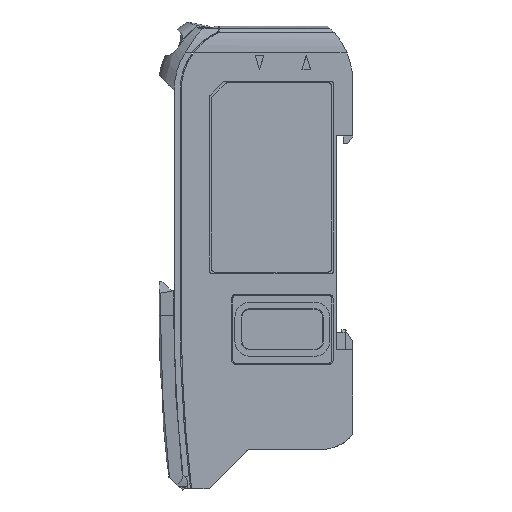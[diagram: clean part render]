
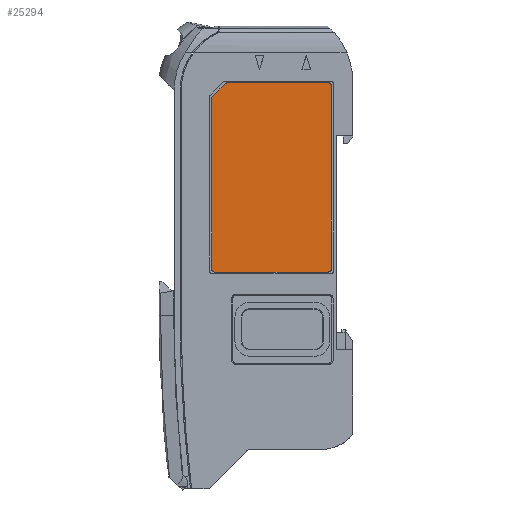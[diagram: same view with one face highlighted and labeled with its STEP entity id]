
A CAD part, left-side view. The second image highlights one B-rep face of the part: STEP entity #25294.
In plain terms, the highlighted planar face has unit normal (-1, 0, 0).
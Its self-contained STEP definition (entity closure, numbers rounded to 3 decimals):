
#65 = CARTESIAN_POINT ( 'NONE',  ( -10.425, 23.703, -41.597 ) ) ;
#2068 = ORIENTED_EDGE ( 'NONE', *, *, #30544, .F. ) ;
#2110 = VERTEX_POINT ( 'NONE', #37469 ) ;
#2374 = CARTESIAN_POINT ( 'NONE',  ( -10.425, 4.203, -9.697 ) ) ;
#3150 = DIRECTION ( 'NONE',  ( 1., 0., 0. ) ) ;
#3850 = EDGE_CURVE ( 'NONE', #12073, #45931, #11597, .T. ) ;
#4039 = CIRCLE ( 'NONE', #30896, 0.5 ) ;
#4186 = DIRECTION ( 'NONE',  ( 0., 0.707, -0.707 ) ) ;
#4609 = CIRCLE ( 'NONE', #18477, 0.5 ) ;
#6719 = EDGE_CURVE ( 'NONE', #43496, #14221, #35089, .T. ) ;
#7288 = CARTESIAN_POINT ( 'NONE',  ( -10.425, 24.203, -12.197 ) ) ;
#7585 = LINE ( 'NONE', #8045, #17081 ) ;
#8045 = CARTESIAN_POINT ( 'NONE',  ( -10.425, 4.203, -42.097 ) ) ;
#8572 = CIRCLE ( 'NONE', #18497, 0.5 ) ;
#8724 = CARTESIAN_POINT ( 'NONE',  ( -10.425, 23.703, -41.597 ) ) ;
#9726 = DIRECTION ( 'NONE',  ( 1., 0., 0. ) ) ;
#10239 = ORIENTED_EDGE ( 'NONE', *, *, #26093, .T. ) ;
#10746 = CARTESIAN_POINT ( 'NONE',  ( -10.425, 3.703, -41.597 ) ) ;
#11163 = VERTEX_POINT ( 'NONE', #10746 ) ;
#11385 = DIRECTION ( 'NONE',  ( 0., 0., -1. ) ) ;
#11597 = LINE ( 'NONE', #7288, #18586 ) ;
#12073 = VERTEX_POINT ( 'NONE', #21500 ) ;
#12399 = ORIENTED_EDGE ( 'NONE', *, *, #31651, .F. ) ;
#12555 = FACE_OUTER_BOUND ( 'NONE', #45118, .T. ) ;
#12856 = ORIENTED_EDGE ( 'NONE', *, *, #23167, .F. ) ;
#14221 = VERTEX_POINT ( 'NONE', #42823 ) ;
#15727 = DIRECTION ( 'NONE',  ( 1., 0., 0. ) ) ;
#16226 = ORIENTED_EDGE ( 'NONE', *, *, #16995, .T. ) ;
#16578 = LINE ( 'NONE', #27618, #23212 ) ;
#16995 = EDGE_CURVE ( 'NONE', #22927, #46850, #7585, .T. ) ;
#17081 = VECTOR ( 'NONE', #44559, 1000. ) ;
#17795 = CARTESIAN_POINT ( 'NONE',  ( -10.425, 3.703, -41.597 ) ) ;
#18277 = LINE ( 'NONE', #17795, #36922 ) ;
#18477 = AXIS2_PLACEMENT_3D ( 'NONE', #65, #29362, #33705 ) ;
#18497 = AXIS2_PLACEMENT_3D ( 'NONE', #43907, #47449, #25489 ) ;
#18586 = VECTOR ( 'NONE', #4186, 1000. ) ;
#18983 = VECTOR ( 'NONE', #21152, 1000. ) ;
#19471 = VERTEX_POINT ( 'NONE', #38339 ) ;
#19633 = VERTEX_POINT ( 'NONE', #25512 ) ;
#19667 = EDGE_CURVE ( 'NONE', #22927, #2110, #4609, .T. ) ;
#20602 = CARTESIAN_POINT ( 'NONE',  ( -10.425, 21.496, -10.197 ) ) ;
#21152 = DIRECTION ( 'NONE',  ( 0., 1., 0. ) ) ;
#21500 = CARTESIAN_POINT ( 'NONE',  ( -10.425, 21.85, -9.843 ) ) ;
#21697 = CARTESIAN_POINT ( 'NONE',  ( -10.425, 4.203, -42.097 ) ) ;
#22927 = VERTEX_POINT ( 'NONE', #45243 ) ;
#22987 = ORIENTED_EDGE ( 'NONE', *, *, #19667, .F. ) ;
#23167 = EDGE_CURVE ( 'NONE', #12073, #14221, #46572, .T. ) ;
#23212 = VECTOR ( 'NONE', #40012, 1000. ) ;
#23428 = DIRECTION ( 'NONE',  ( 0., 0., 1. ) ) ;
#24377 = PLANE ( 'NONE',  #46854 ) ;
#25294 = ADVANCED_FACE ( 'NONE', ( #12555 ), #24377, .T. ) ;
#25489 = DIRECTION ( 'NONE',  ( 0., 0., -1. ) ) ;
#25512 = CARTESIAN_POINT ( 'NONE',  ( -10.425, 3.703, -10.197 ) ) ;
#25754 = AXIS2_PLACEMENT_3D ( 'NONE', #20602, #9726, #45923 ) ;
#26093 = EDGE_CURVE ( 'NONE', #11163, #19633, #18277, .T. ) ;
#26539 = ORIENTED_EDGE ( 'NONE', *, *, #30533, .T. ) ;
#27618 = CARTESIAN_POINT ( 'NONE',  ( -10.425, 24.203, -41.597 ) ) ;
#29362 = DIRECTION ( 'NONE',  ( 1., 0., 0. ) ) ;
#29699 = CARTESIAN_POINT ( 'NONE',  ( -10.425, 4.203, -41.597 ) ) ;
#30478 = CIRCLE ( 'NONE', #38215, 0.5 ) ;
#30533 = EDGE_CURVE ( 'NONE', #19471, #2110, #16578, .T. ) ;
#30544 = EDGE_CURVE ( 'NONE', #19471, #45931, #8572, .T. ) ;
#30896 = AXIS2_PLACEMENT_3D ( 'NONE', #36157, #3150, #36876 ) ;
#31154 = ORIENTED_EDGE ( 'NONE', *, *, #6719, .T. ) ;
#31651 = EDGE_CURVE ( 'NONE', #43496, #19633, #4039, .T. ) ;
#33179 = ORIENTED_EDGE ( 'NONE', *, *, #3850, .T. ) ;
#33271 = CARTESIAN_POINT ( 'NONE',  ( -10.425, 24.057, -12.05 ) ) ;
#33705 = DIRECTION ( 'NONE',  ( 0., 0., -1. ) ) ;
#34243 = DIRECTION ( 'NONE',  ( -1., 0., 0. ) ) ;
#35089 = LINE ( 'NONE', #2374, #18983 ) ;
#36157 = CARTESIAN_POINT ( 'NONE',  ( -10.425, 4.203, -10.197 ) ) ;
#36876 = DIRECTION ( 'NONE',  ( 0., 0., -1. ) ) ;
#36922 = VECTOR ( 'NONE', #39769, 1000. ) ;
#37462 = EDGE_CURVE ( 'NONE', #11163, #46850, #30478, .T. ) ;
#37469 = CARTESIAN_POINT ( 'NONE',  ( -10.425, 24.203, -41.597 ) ) ;
#38215 = AXIS2_PLACEMENT_3D ( 'NONE', #29699, #15727, #11385 ) ;
#38339 = CARTESIAN_POINT ( 'NONE',  ( -10.425, 24.203, -12.404 ) ) ;
#39769 = DIRECTION ( 'NONE',  ( 0., 0., 1. ) ) ;
#40012 = DIRECTION ( 'NONE',  ( 0., 0., -1. ) ) ;
#42823 = CARTESIAN_POINT ( 'NONE',  ( -10.425, 21.496, -9.697 ) ) ;
#43496 = VERTEX_POINT ( 'NONE', #47596 ) ;
#43907 = CARTESIAN_POINT ( 'NONE',  ( -10.425, 23.703, -12.404 ) ) ;
#44559 = DIRECTION ( 'NONE',  ( 0., -1., 0. ) ) ;
#45118 = EDGE_LOOP ( 'NONE', ( #26539, #22987, #16226, #46369, #10239, #12399, #31154, #12856, #33179, #2068 ) ) ;
#45243 = CARTESIAN_POINT ( 'NONE',  ( -10.425, 23.703, -42.097 ) ) ;
#45923 = DIRECTION ( 'NONE',  ( 0., 0., -1. ) ) ;
#45931 = VERTEX_POINT ( 'NONE', #33271 ) ;
#46369 = ORIENTED_EDGE ( 'NONE', *, *, #37462, .F. ) ;
#46572 = CIRCLE ( 'NONE', #25754, 0.5 ) ;
#46850 = VERTEX_POINT ( 'NONE', #21697 ) ;
#46854 = AXIS2_PLACEMENT_3D ( 'NONE', #8724, #34243, #23428 ) ;
#47449 = DIRECTION ( 'NONE',  ( 1., 0., 0. ) ) ;
#47596 = CARTESIAN_POINT ( 'NONE',  ( -10.425, 4.203, -9.697 ) ) ;
